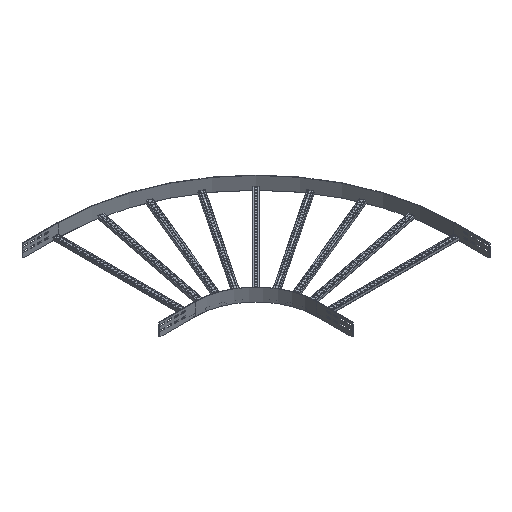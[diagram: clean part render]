
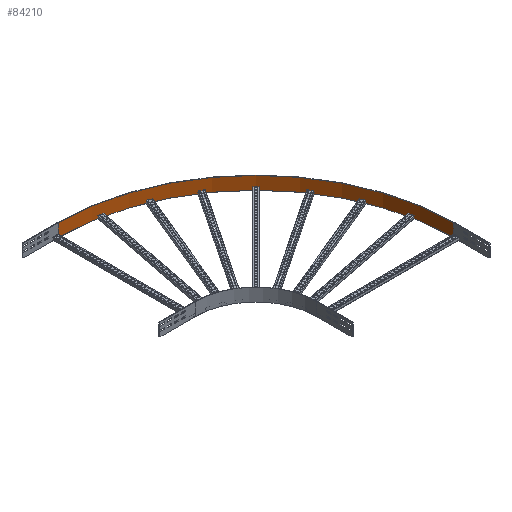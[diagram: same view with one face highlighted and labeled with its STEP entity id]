
A CAD part, isometric view. The second image highlights one B-rep face of the part: STEP entity #84210.
In plain terms, the highlighted cylindrical face has radius 1455 mm (diameter 2910 mm), a partial arc.
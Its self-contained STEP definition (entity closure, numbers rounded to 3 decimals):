
#71360=CARTESIAN_POINT('',(-1343.974,812.912,
-1148.394));
#71370=VERTEX_POINT('',#71360);
#71400=CARTESIAN_POINT('',(-1343.974,-642.088,
-1148.394));
#71410=DIRECTION('',(0.,0.,1.));
#71420=DIRECTION('',(1.,0.,0.));
#71430=AXIS2_PLACEMENT_3D('',#71400,#71410,#71420);
#71440=CIRCLE('',#71430,1455.);
#71450=CARTESIAN_POINT('',(111.026,-642.088,
-1148.394));
#71460=VERTEX_POINT('',#71450);
#71470=EDGE_CURVE('',#71460,#71370,#71440,.T.);
#78640=CARTESIAN_POINT('',(-1343.974,812.912,
-1053.394));
#78650=VERTEX_POINT('',#78640);
#78680=CARTESIAN_POINT('',(-1343.974,812.912,
-1053.394));
#78690=DIRECTION('',(0.,0.,1.));
#78700=VECTOR('',#78690,1.);
#78710=LINE('',#78680,#78700);
#78720=EDGE_CURVE('',#71370,#78650,#78710,.T.);
#83880=CARTESIAN_POINT('',(111.026,-642.088,
-1053.394));
#83890=VERTEX_POINT('',#83880);
#83920=CARTESIAN_POINT('',(-1343.974,-642.088,
-1053.394));
#83930=DIRECTION('',(0.,0.,1.));
#83940=DIRECTION('',(1.,0.,0.));
#83950=AXIS2_PLACEMENT_3D('',#83920,#83930,#83940);
#83960=CIRCLE('',#83950,1455.);
#83970=EDGE_CURVE('',#83890,#78650,#83960,.T.);
#84050=CARTESIAN_POINT('',(-1343.974,-642.088,
-1053.394));
#84060=DIRECTION('',(0.,0.,1.));
#84070=DIRECTION('',(1.,0.,0.));
#84080=AXIS2_PLACEMENT_3D('',#84050,#84060,#84070);
#84090=CYLINDRICAL_SURFACE('',#84080,1455.);
#84100=ORIENTED_EDGE('',*,*,#83970,.T.);
#84110=CARTESIAN_POINT('',(111.026,-642.088,
-1053.394));
#84120=DIRECTION('',(0.,0.,1.));
#84130=VECTOR('',#84120,1.);
#84140=LINE('',#84110,#84130);
#84150=EDGE_CURVE('',#71460,#83890,#84140,.T.);
#84160=ORIENTED_EDGE('',*,*,#84150,.T.);
#84170=ORIENTED_EDGE('',*,*,#71470,.F.);
#84180=ORIENTED_EDGE('',*,*,#78720,.F.);
#84190=EDGE_LOOP('',(#84180,#84170,#84160,#84100));
#84200=FACE_OUTER_BOUND('',#84190,.T.);
#84210=ADVANCED_FACE('',(#84200),#84090,.F.);
